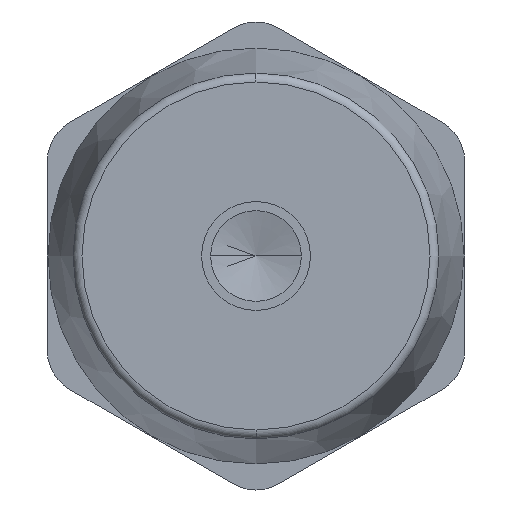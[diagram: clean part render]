
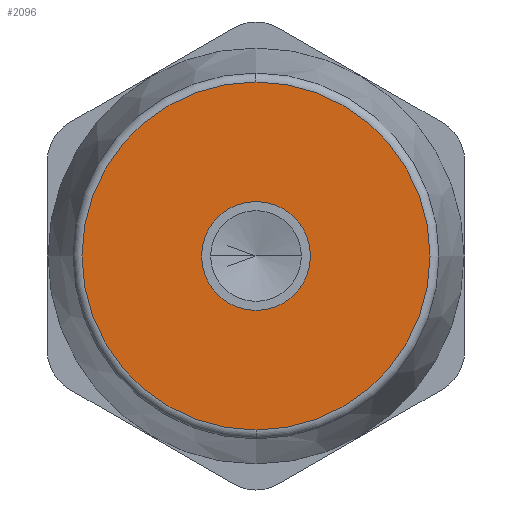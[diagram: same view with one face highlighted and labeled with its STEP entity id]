
A CAD part, front view. The second image highlights one B-rep face of the part: STEP entity #2096.
In plain terms, the highlighted planar face has unit normal (0, -1, 0).
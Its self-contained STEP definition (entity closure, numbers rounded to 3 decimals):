
#37 = EDGE_LOOP ( 'NONE', ( #537, #290 ) ) ;
#60 = CARTESIAN_POINT ( 'NONE',  ( 6., 0., 0. ) ) ;
#118 = AXIS2_PLACEMENT_3D ( 'NONE', #666, #834, #855 ) ;
#180 = CARTESIAN_POINT ( 'NONE',  ( 0., 0., 0. ) ) ;
#290 = ORIENTED_EDGE ( 'NONE', *, *, #1280, .T. ) ;
#304 = PLANE ( 'NONE',  #1423 ) ;
#330 = CARTESIAN_POINT ( 'NONE',  ( 0., 0., 0. ) ) ;
#412 = ORIENTED_EDGE ( 'NONE', *, *, #1827, .T. ) ;
#416 = EDGE_CURVE ( 'NONE', #620, #654, #671, .T. ) ;
#448 = ORIENTED_EDGE ( 'NONE', *, *, #565, .T. ) ;
#529 = CARTESIAN_POINT ( 'NONE',  ( 0., 0., -19.176 ) ) ;
#537 = ORIENTED_EDGE ( 'NONE', *, *, #416, .T. ) ;
#548 = FACE_BOUND ( 'NONE', #1682, .T. ) ;
#565 = EDGE_CURVE ( 'NONE', #2577, #897, #1307, .T. ) ;
#620 = VERTEX_POINT ( 'NONE', #1278 ) ;
#654 = VERTEX_POINT ( 'NONE', #529 ) ;
#666 = CARTESIAN_POINT ( 'NONE',  ( 0., 0., 0. ) ) ;
#671 = CIRCLE ( 'NONE', #1565, 19.176 ) ;
#740 = DIRECTION ( 'NONE',  ( -1., 0., 0. ) ) ;
#834 = DIRECTION ( 'NONE',  ( 0., -1., 0. ) ) ;
#855 = DIRECTION ( 'NONE',  ( 0., 0., 1. ) ) ;
#897 = VERTEX_POINT ( 'NONE', #60 ) ;
#940 = CARTESIAN_POINT ( 'NONE',  ( 23., 0., -13.279 ) ) ;
#1018 = DIRECTION ( 'NONE',  ( -1., 0., 0. ) ) ;
#1120 = DIRECTION ( 'NONE',  ( 0., -1., 0. ) ) ;
#1173 = AXIS2_PLACEMENT_3D ( 'NONE', #180, #1634, #1018 ) ;
#1175 = DIRECTION ( 'NONE',  ( 0., 1., 0. ) ) ;
#1207 = CARTESIAN_POINT ( 'NONE',  ( -6., 0., 0. ) ) ;
#1278 = CARTESIAN_POINT ( 'NONE',  ( 0., 0., 19.176 ) ) ;
#1280 = EDGE_CURVE ( 'NONE', #654, #620, #1311, .T. ) ;
#1285 = CIRCLE ( 'NONE', #1949, 6. ) ;
#1307 = CIRCLE ( 'NONE', #1173, 6. ) ;
#1311 = CIRCLE ( 'NONE', #118, 19.176 ) ;
#1423 = AXIS2_PLACEMENT_3D ( 'NONE', #940, #1175, #2483 ) ;
#1565 = AXIS2_PLACEMENT_3D ( 'NONE', #2627, #1120, #1967 ) ;
#1621 = FACE_OUTER_BOUND ( 'NONE', #37, .T. ) ;
#1634 = DIRECTION ( 'NONE',  ( 0., 1., 0. ) ) ;
#1682 = EDGE_LOOP ( 'NONE', ( #448, #412 ) ) ;
#1827 = EDGE_CURVE ( 'NONE', #897, #2577, #1285, .T. ) ;
#1949 = AXIS2_PLACEMENT_3D ( 'NONE', #330, #2016, #740 ) ;
#1967 = DIRECTION ( 'NONE',  ( 0., 0., 1. ) ) ;
#2016 = DIRECTION ( 'NONE',  ( 0., 1., 0. ) ) ;
#2096 = ADVANCED_FACE ( 'NONE', ( #548, #1621 ), #304, .F. ) ;
#2483 = DIRECTION ( 'NONE',  ( 0., 0., 1. ) ) ;
#2577 = VERTEX_POINT ( 'NONE', #1207 ) ;
#2627 = CARTESIAN_POINT ( 'NONE',  ( 0., 0., 0. ) ) ;
